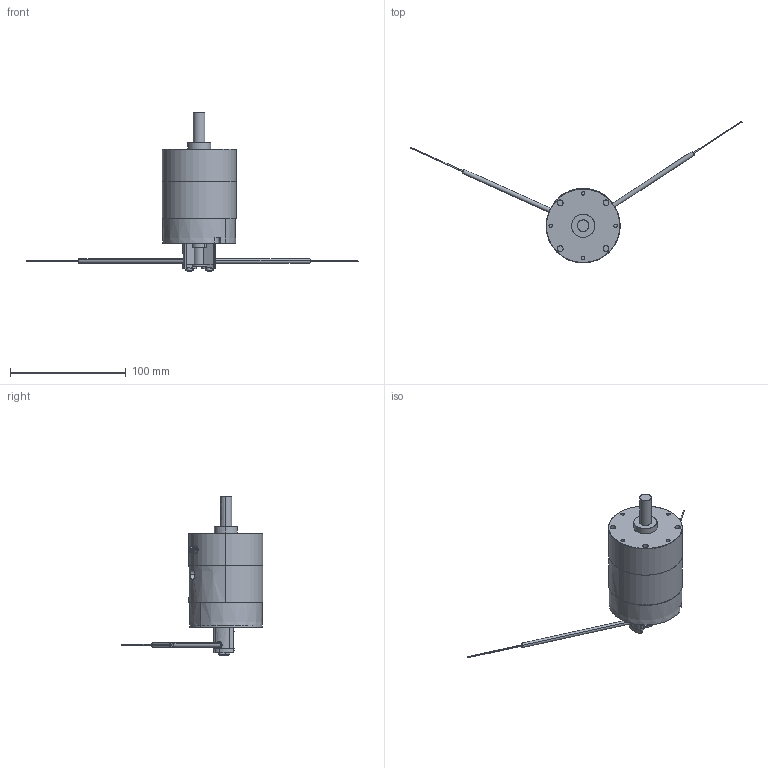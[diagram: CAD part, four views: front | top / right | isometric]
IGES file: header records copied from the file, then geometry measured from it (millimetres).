
Start section: SolidWorks IGES file using analytic representation for surfaces
Global section: file name: C:\Users\Chieh_Lu\Dropbox\¤u§@«Ç\PRO\PROA30S-D\PROA30S-D-#-#\PRO30D-#-#-#-FU.IGS; native system: SolidWorks 2014; preprocessor: SolidWorks 2014; author: Chieh_Lu; date: 150801.214016; units: millimetre
Bounding box: 286.86 x 122.59 x 137.11 mm (x, y, z)
Surface area: 59633.1 mm2 (no closed solid volume)
Topology: 0 solids, 0 shells, 531 faces, 7894 edges, 7888 vertices
Faces by surface type: bspline 270, revolution 261
